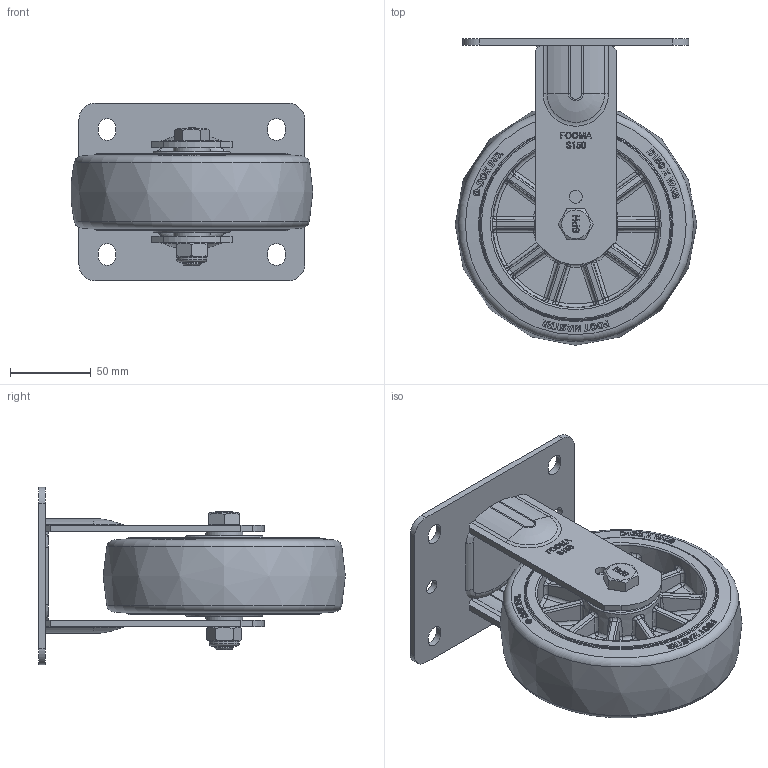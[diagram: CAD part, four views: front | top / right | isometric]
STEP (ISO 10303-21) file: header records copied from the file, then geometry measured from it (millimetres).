
FILE_DESCRIPTION(/* description */ (''),/* implementation_level */ '2;1');
FILE_NAME(/* name */ 'C:\Users\admin\Desktop\업무폴더\일자별 업무\2026\05월\05.15\변환\SPH-150-ARF-TUD&HRD-PEU.ipt.stp',/* time_stamp */ '2026-05-15T16:34:10+09:00',/* author */ ('admin'),/* organization */ ('지덕산업'),/* preprocessor_version */ 'ST-DEVELOPER v18.1',/* originating_system */ 'Autodesk Inventor 2021',/* authorisation */ '');
FILE_SCHEMA (('AUTOMOTIVE_DESIGN { 1 0 10303 214 3 1 1 }'));
Products named in the file (1): SPH-150-ARF-TUD&HRD-PEU
Bounding box: 149.76 x 190 x 110 mm (x, y, z)
Volume: 729465.2 mm3; surface area: 137313.9 mm2
Topology: 1 solids, 1 shells, 1522 faces, 3847 edges, 2421 vertices
Faces by surface type: bspline 601, plane 578, cylinder 133, sphere 84, torus 68, cone 58
Full cylindrical faces by diameter (mm): 8 x2, 9 x2, 12 x1, 18 x1, 18.5 x1
Entity records: 53748 total; most frequent: CARTESIAN_POINT 22105, ORIENTED_EDGE 7694, DIRECTION 4765, EDGE_CURVE 3847, VERTEX_POINT 2421, EDGE_LOOP 1634, AXIS2_PLACEMENT_3D 1618, LINE 1529
